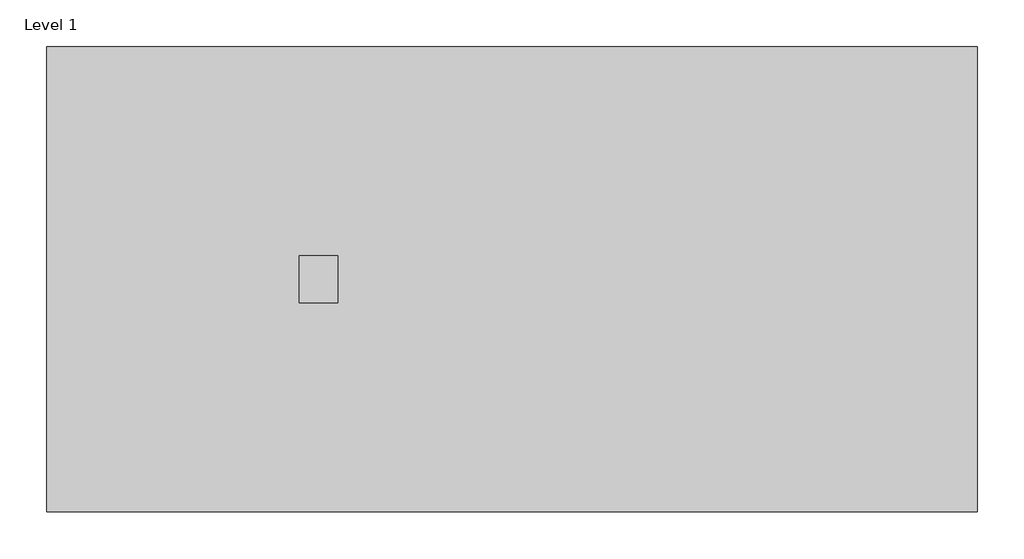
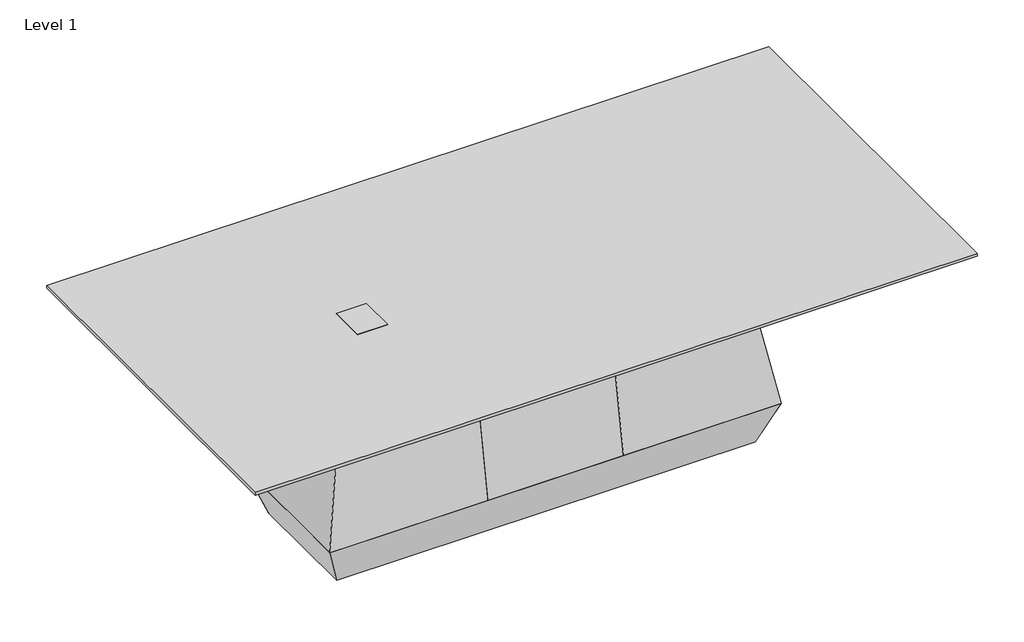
# One storey: 13 proxies.
"""IFC4 building model written with IfcOpenShell, lengths in millimetres."""

from ifc_helpers import new_model, si_unit, origin, place, context, project, spatial, transform, mapped, element, save
from components import generic_models_bfa2ec4a, generic_models_f1b2acdb, generic_models_f4aebec8, generic_models_47bde63c, generic_models_e70f2707, generic_models_0918f51e, generic_models_8cdc151c, generic_models_f1ff75ba, generic_models_3a8b6ff9, generic_models_d71e7aa1, generic_models_68fb9604, generic_models_aa2f0f71

model = new_model("IFC4")

# Units and contexts
model_context = context("Model", 3, world=origin())
ifc_project = project(units=[si_unit("LENGTHUNIT", "METRE", prefix="MILLI")], contexts=[model_context])

# Site, building, storey
site = spatial("IfcSite", under=ifc_project)
building = spatial("IfcBuilding", under=site)
storey = spatial("IfcBuildingStorey", under=building, Name="Level 1", Elevation=0.0)

# Proxies
placement = place(None, origin())
generic_models_shape = generic_models_bfa2ec4a(model_context)
element("IfcBuildingElementProxy", 1, Name="GRADIENT^TABLE 5_PRISM BASE-FRONT WING TOP", ObjectType="GRADIENT^TABLE 5_PRISM BASE-FRONT WING TOP", at=placement, inside=storey, context=model_context, shape_type="MappedRepresentation", body=[
    mapped(generic_models_shape, transform((0.0, 0.0, 0.0), x_axis=(1.0, 0.0, 0.0), y_axis=(0.0, 0.0, 1.0), z_axis=(0.0, -1.0, 0.0))),
])
generic_models_2_shape = generic_models_f1b2acdb(model_context)
element("IfcBuildingElementProxy", 2, Name="GRADIENT^TABLE 5_PRISM BASE-LT END BOTTOM", ObjectType="GRADIENT^TABLE 5_PRISM BASE-LT END BOTTOM", at=placement, inside=storey, context=model_context, shape_type="MappedRepresentation", body=[
    mapped(generic_models_2_shape, transform((0.0, 0.0, 0.0), x_axis=(1.0, 0.0, 0.0), y_axis=(0.0, 0.0, 1.0), z_axis=(0.0, -1.0, 0.0))),
])
generic_models_3_shape = generic_models_f4aebec8(model_context)
element("IfcBuildingElementProxy", 3, Name="GRADIENT^TABLE 5_PRISM BASE-ACCESS PANEL", ObjectType="GRADIENT^TABLE 5_PRISM BASE-ACCESS PANEL", at=placement, inside=storey, context=model_context, shape_type="MappedRepresentation", body=[
    mapped(generic_models_3_shape, transform((0.0, 0.0, 0.0), x_axis=(1.0, 0.0, 0.0), y_axis=(0.0, 0.0, 1.0), z_axis=(0.0, -1.0, 0.0))),
])
generic_models_4_shape = generic_models_47bde63c(model_context)
element("IfcBuildingElementProxy", 4, Name="GRADIENT^TABLE 5_PRISM BASE-POWER LID", ObjectType="GRADIENT^TABLE 5_PRISM BASE-POWER LID", at=placement, inside=storey, context=model_context, shape_type="MappedRepresentation", body=[
    mapped(generic_models_4_shape, transform((763.3812427, 671.5125, 19.05), x_axis=(0.0, -1.0, 0.0), y_axis=(0.0, 0.0, 1.0), z_axis=(-1.0, 0.0, 0.0))),
])
element("IfcBuildingElementProxy", 5, Name="GRADIENT^TABLE 5_PRISM BASE-POWER LID", ObjectType="GRADIENT^TABLE 5_PRISM BASE-POWER LID", at=placement, inside=storey, context=model_context, shape_type="MappedRepresentation", body=[
    mapped(generic_models_4_shape, transform((1675.0187573, 547.6875, 19.05), x_axis=(0.0, 1.0, 0.0), y_axis=(0.0, 0.0, 1.0), z_axis=(1.0, 0.0, 0.0))),
])
generic_models_5_shape = generic_models_e70f2707(model_context)
element("IfcBuildingElementProxy", 6, Name="GRADIENT^TABLE 5_PRISM BASE-FRONT BOTTOM", ObjectType="GRADIENT^TABLE 5_PRISM BASE-FRONT BOTTOM", at=placement, inside=storey, context=model_context, shape_type="MappedRepresentation", body=[
    mapped(generic_models_5_shape, transform((0.0, 0.0, 0.0), x_axis=(1.0, 0.0, 0.0), y_axis=(0.0, 0.0, 1.0), z_axis=(0.0, -1.0, 0.0))),
])
generic_models_6_shape = generic_models_0918f51e(model_context)
element("IfcBuildingElementProxy", 7, Name="GRADIENT^TABLE 5_PRISM BASE-RT END TOP", ObjectType="GRADIENT^TABLE 5_PRISM BASE-RT END TOP", at=placement, inside=storey, context=model_context, shape_type="MappedRepresentation", body=[
    mapped(generic_models_6_shape, transform((0.0, 0.0, 0.0), x_axis=(1.0, 0.0, 0.0), y_axis=(0.0, 0.0, 1.0), z_axis=(0.0, -1.0, 0.0))),
])
generic_models_7_shape = generic_models_8cdc151c(model_context)
element("IfcBuildingElementProxy", 8, Name="GRADIENT^TABLE 5_PRISM BASE-BASE", ObjectType="GRADIENT^TABLE 5_PRISM BASE-BASE", at=placement, inside=storey, context=model_context, shape_type="MappedRepresentation", body=[
    mapped(generic_models_7_shape, transform((0.0, 0.0, 0.0), x_axis=(1.0, 0.0, 0.0), y_axis=(0.0, 0.0, 1.0), z_axis=(0.0, -1.0, 0.0))),
])
generic_models_8_shape = generic_models_f1ff75ba(model_context)
element("IfcBuildingElementProxy", 9, Name="GRADIENT^TABLE 5_PRISM BASE-BACK BOTTOM", ObjectType="GRADIENT^TABLE 5_PRISM BASE-BACK BOTTOM", at=placement, inside=storey, context=model_context, shape_type="MappedRepresentation", body=[
    mapped(generic_models_8_shape, transform((0.0, 0.0, 0.0), x_axis=(1.0, 0.0, 0.0), y_axis=(0.0, 0.0, 1.0), z_axis=(0.0, -1.0, 0.0))),
])
generic_models_9_shape = generic_models_3a8b6ff9(model_context)
element("IfcBuildingElementProxy", 10, Name="GRADIENT^TABLE 5_PRISM BASE-BACK TOP", ObjectType="GRADIENT^TABLE 5_PRISM BASE-BACK TOP", at=placement, inside=storey, context=model_context, shape_type="MappedRepresentation", body=[
    mapped(generic_models_9_shape, transform((0.0, 0.0, 0.0), x_axis=(1.0, 0.0, 0.0), y_axis=(0.0, 0.0, 1.0), z_axis=(0.0, -1.0, 0.0))),
])
generic_models_10_shape = generic_models_d71e7aa1(model_context)
element("IfcBuildingElementProxy", 11, Name="GRADIENT^TABLE 5_PRISM BASE-RT END BOTTOM", ObjectType="GRADIENT^TABLE 5_PRISM BASE-RT END BOTTOM", at=placement, inside=storey, context=model_context, shape_type="MappedRepresentation", body=[
    mapped(generic_models_10_shape, transform((0.0, 0.0, 0.0), x_axis=(1.0, 0.0, 0.0), y_axis=(0.0, 0.0, 1.0), z_axis=(0.0, -1.0, 0.0))),
])
generic_models_11_shape = generic_models_68fb9604(model_context)
element("IfcBuildingElementProxy", 12, Name="GRADIENT^TABLE 5_PRISM BASE-WORKSURFACE", ObjectType="GRADIENT^TABLE 5_PRISM BASE-WORKSURFACE", at=placement, inside=storey, context=model_context, shape_type="MappedRepresentation", body=[
    mapped(generic_models_11_shape, transform((0.0, 0.0, 0.0), x_axis=(1.0, 0.0, 0.0), y_axis=(0.0, 0.0, 1.0), z_axis=(0.0, -1.0, 0.0))),
])
generic_models_12_shape = generic_models_aa2f0f71(model_context)
element("IfcBuildingElementProxy", 13, Name="GRADIENT^TABLE 5_PRISM BASE-LT END TOP", ObjectType="GRADIENT^TABLE 5_PRISM BASE-LT END TOP", at=placement, inside=storey, context=model_context, shape_type="MappedRepresentation", body=[
    mapped(generic_models_12_shape, transform((0.0, 0.0, 0.0), x_axis=(1.0, 0.0, 0.0), y_axis=(0.0, 0.0, 1.0), z_axis=(0.0, -1.0, 0.0))),
])

save(model, "model.ifc")
